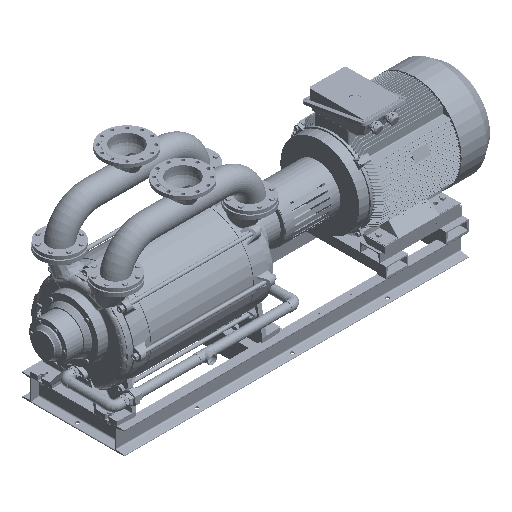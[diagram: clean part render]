
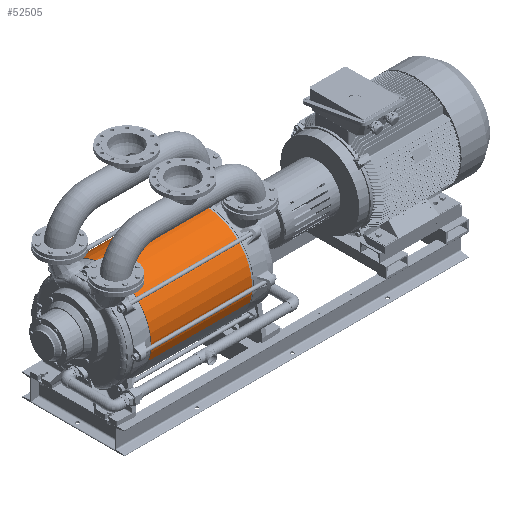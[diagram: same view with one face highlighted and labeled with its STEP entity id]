
A CAD part, isometric view. The second image highlights one B-rep face of the part: STEP entity #52505.
In plain terms, the highlighted cylindrical face has radius 334 mm (diameter 668 mm), a partial arc.
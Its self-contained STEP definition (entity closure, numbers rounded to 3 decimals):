
#21196 = CIRCLE ( 'NONE', #179232, 334. ) ;
#24739 = DIRECTION ( 'NONE',  ( -1., 0., 0. ) ) ;
#26556 = CARTESIAN_POINT ( 'NONE',  ( 944.95, -17.683, 296.88 ) ) ;
#52505 = ADVANCED_FACE ( 'NONE', ( #246422 ), #222617, .T. ) ;
#63793 = VERTEX_POINT ( 'NONE', #136291 ) ;
#86144 = EDGE_CURVE ( 'NONE', #263552, #252985, #307451, .T. ) ;
#92429 = DIRECTION ( 'NONE',  ( -1., 0., 0. ) ) ;
#93768 = EDGE_CURVE ( 'NONE', #63793, #252985, #220557, .T. ) ;
#96019 = CARTESIAN_POINT ( 'NONE',  ( 944.95, 617.683, 503.12 ) ) ;
#114234 = ORIENTED_EDGE ( 'NONE', *, *, #362124, .F. ) ;
#118291 = ORIENTED_EDGE ( 'NONE', *, *, #86144, .T. ) ;
#123786 = DIRECTION ( 'NONE',  ( 0., 0.951, 0.309 ) ) ;
#136291 = CARTESIAN_POINT ( 'NONE',  ( 944.95, -17.683, 296.88 ) ) ;
#147361 = LINE ( 'NONE', #96019, #348191 ) ;
#147755 = DIRECTION ( 'NONE',  ( 0., 0.951, 0.309 ) ) ;
#175515 = VECTOR ( 'NONE', #24739, 1000. ) ;
#178657 = DIRECTION ( 'NONE',  ( 1., 0., 0. ) ) ;
#179232 = AXIS2_PLACEMENT_3D ( 'NONE', #319681, #178657, #123786 ) ;
#192203 = CARTESIAN_POINT ( 'NONE',  ( 223.95, 617.683, 503.12 ) ) ;
#201219 = ORIENTED_EDGE ( 'NONE', *, *, #93768, .F. ) ;
#211146 = ORIENTED_EDGE ( 'NONE', *, *, #223527, .T. ) ;
#218558 = AXIS2_PLACEMENT_3D ( 'NONE', #327127, #272139, #330757 ) ;
#220557 = LINE ( 'NONE', #26556, #175515 ) ;
#222617 = CYLINDRICAL_SURFACE ( 'NONE', #218558, 334. ) ;
#223527 = EDGE_CURVE ( 'NONE', #356939, #263552, #147361, .T. ) ;
#225143 = CARTESIAN_POINT ( 'NONE',  ( 223.95, 300., 400. ) ) ;
#225335 = AXIS2_PLACEMENT_3D ( 'NONE', #225143, #292285, #147755 ) ;
#231803 = CARTESIAN_POINT ( 'NONE',  ( 944.95, 617.683, 503.12 ) ) ;
#246422 = FACE_OUTER_BOUND ( 'NONE', #329845, .T. ) ;
#252985 = VERTEX_POINT ( 'NONE', #273980 ) ;
#263552 = VERTEX_POINT ( 'NONE', #192203 ) ;
#272139 = DIRECTION ( 'NONE',  ( -1., 0., 0. ) ) ;
#273980 = CARTESIAN_POINT ( 'NONE',  ( 223.95, -17.683, 296.88 ) ) ;
#292285 = DIRECTION ( 'NONE',  ( 1., 0., 0. ) ) ;
#307451 = CIRCLE ( 'NONE', #225335, 334. ) ;
#319681 = CARTESIAN_POINT ( 'NONE',  ( 944.95, 300., 400. ) ) ;
#327127 = CARTESIAN_POINT ( 'NONE',  ( 944.95, 300., 400. ) ) ;
#329845 = EDGE_LOOP ( 'NONE', ( #114234, #211146, #118291, #201219 ) ) ;
#330757 = DIRECTION ( 'NONE',  ( 0., -0.951, -0.309 ) ) ;
#348191 = VECTOR ( 'NONE', #92429, 1000. ) ;
#356939 = VERTEX_POINT ( 'NONE', #231803 ) ;
#362124 = EDGE_CURVE ( 'NONE', #356939, #63793, #21196, .T. ) ;
